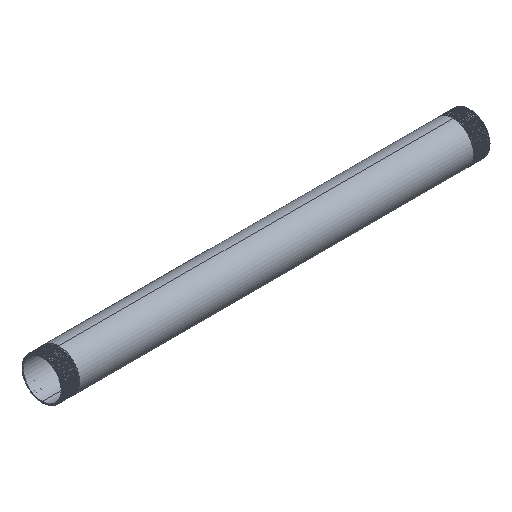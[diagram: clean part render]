
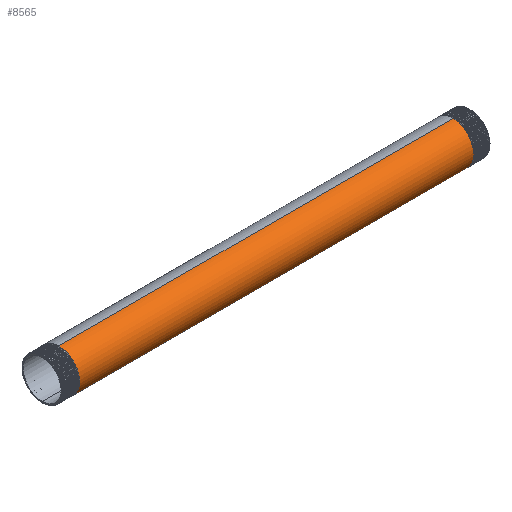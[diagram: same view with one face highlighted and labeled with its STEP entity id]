
A CAD part, isometric view. The second image highlights one B-rep face of the part: STEP entity #8565.
In plain terms, the highlighted cylindrical face has radius 24.15 mm (diameter 48.3 mm), a partial arc.
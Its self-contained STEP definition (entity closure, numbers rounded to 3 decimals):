
#83 = CARTESIAN_POINT ( 'NONE',  ( 230.141, -24.15, -10.003 ) ) ;
#925 = DIRECTION ( 'NONE',  ( 0., 0., 1. ) ) ;
#1207 = CARTESIAN_POINT ( 'NONE',  ( -230.453, -10.003, 24.15 ) ) ;
#1986 = EDGE_CURVE ( 'NONE', #7922, #4952, #12515, .T. ) ;
#2148 = CARTESIAN_POINT ( 'NONE',  ( -230.063, -17.077, -17.077 ) ) ;
#2200 = CARTESIAN_POINT ( 'NONE',  ( 229.906, 0., -24.15 ) ) ;
#2221 = CARTESIAN_POINT ( 'NONE',  ( -229.906, 0., -24.15 ) ) ;
#2338 = CARTESIAN_POINT ( 'NONE',  ( 230.219, -24.15, 0. ) ) ;
#3191 = DIRECTION ( 'NONE',  ( -1., 0., 0. ) ) ;
#3708 = ORIENTED_EDGE ( 'NONE', *, *, #9220, .T. ) ;
#4345 = CARTESIAN_POINT ( 'NONE',  ( -149.494, 0., -24.15 ) ) ;
#4374 = CARTESIAN_POINT ( 'NONE',  ( 230.297, -24.15, 10.003 ) ) ;
#4417 = LINE ( 'NONE', #4345, #5498 ) ;
#4593 = CARTESIAN_POINT ( 'NONE',  ( 229.984, -10.003, -24.15 ) ) ;
#4606 = VERTEX_POINT ( 'NONE', #7221 ) ;
#4763 = EDGE_CURVE ( 'NONE', #10411, #4952, #4874, .T. ) ;
#4874 =( BOUNDED_CURVE ( )  B_SPLINE_CURVE ( 2, ( #2221, #6640, #2148, #5631, #6708, #9972, #11136, #1207, #13391 ),
 .UNSPECIFIED., .F., .F. ) 
 B_SPLINE_CURVE_WITH_KNOTS ( ( 3, 2, 2, 2, 3 ),
 ( 0., 0.006, 0.012, 0.019, 0.025 ),
 .UNSPECIFIED. ) 
 CURVE ( )  GEOMETRIC_REPRESENTATION_ITEM ( )  RATIONAL_B_SPLINE_CURVE ( ( 1., 0.924, 1., 0.924, 1., 0.924, 1., 0.924, 1. ) ) 
 REPRESENTATION_ITEM ( '' )  );
#4952 = VERTEX_POINT ( 'NONE', #12994 ) ;
#5498 = VECTOR ( 'NONE', #3191, 1000. ) ;
#5631 = CARTESIAN_POINT ( 'NONE',  ( -230.141, -24.15, -10.003 ) ) ;
#5677 = CARTESIAN_POINT ( 'NONE',  ( 230.063, -17.077, -17.077 ) ) ;
#6026 = CARTESIAN_POINT ( 'NONE',  ( 230.531, 0., 24.15 ) ) ;
#6617 = CARTESIAN_POINT ( 'NONE',  ( 230.531, 0., 24.15 ) ) ;
#6640 = CARTESIAN_POINT ( 'NONE',  ( -229.984, -10.003, -24.15 ) ) ;
#6708 = CARTESIAN_POINT ( 'NONE',  ( -230.219, -24.15, 0. ) ) ;
#7112 = EDGE_CURVE ( 'NONE', #4606, #10411, #4417, .T. ) ;
#7221 = CARTESIAN_POINT ( 'NONE',  ( 229.906, 0., -24.15 ) ) ;
#7630 = VECTOR ( 'NONE', #13663, 1000. ) ;
#7749 =( BOUNDED_CURVE ( )  B_SPLINE_CURVE ( 2, ( #2200, #4593, #5677, #83, #2338, #4374, #11117, #11045, #6617 ),
 .UNSPECIFIED., .F., .T. ) 
 B_SPLINE_CURVE_WITH_KNOTS ( ( 3, 2, 2, 2, 3 ),
 ( 0., 0.006, 0.012, 0.019, 0.025 ),
 .UNSPECIFIED. ) 
 CURVE ( )  GEOMETRIC_REPRESENTATION_ITEM ( )  RATIONAL_B_SPLINE_CURVE ( ( 1., 0.924, 1., 0.924, 1., 0.924, 1., 0.924, 1. ) ) 
 REPRESENTATION_ITEM ( '' )  );
#7922 = VERTEX_POINT ( 'NONE', #6026 ) ;
#8565 = ADVANCED_FACE ( 'NONE', ( #8750 ), #10859, .T. ) ;
#8750 = FACE_OUTER_BOUND ( 'NONE', #9607, .T. ) ;
#9220 = EDGE_CURVE ( 'NONE', #4606, #7922, #7749, .T. ) ;
#9607 = EDGE_LOOP ( 'NONE', ( #10448, #3708, #12938, #14243 ) ) ;
#9621 = DIRECTION ( 'NONE',  ( -1., 0., 0. ) ) ;
#9622 = AXIS2_PLACEMENT_3D ( 'NONE', #11881, #9621, #925 ) ;
#9972 = CARTESIAN_POINT ( 'NONE',  ( -230.297, -24.15, 10.003 ) ) ;
#10059 = CARTESIAN_POINT ( 'NONE',  ( -229.906, 0., -24.15 ) ) ;
#10327 = CARTESIAN_POINT ( 'NONE',  ( -149.494, 0., 24.15 ) ) ;
#10411 = VERTEX_POINT ( 'NONE', #10059 ) ;
#10448 = ORIENTED_EDGE ( 'NONE', *, *, #7112, .F. ) ;
#10859 = CYLINDRICAL_SURFACE ( 'NONE', #9622, 24.15 ) ;
#11045 = CARTESIAN_POINT ( 'NONE',  ( 230.453, -10.003, 24.15 ) ) ;
#11117 = CARTESIAN_POINT ( 'NONE',  ( 230.375, -17.077, 17.077 ) ) ;
#11136 = CARTESIAN_POINT ( 'NONE',  ( -230.375, -17.077, 17.077 ) ) ;
#11881 = CARTESIAN_POINT ( 'NONE',  ( -149.494, 0., 0. ) ) ;
#12515 = LINE ( 'NONE', #10327, #7630 ) ;
#12938 = ORIENTED_EDGE ( 'NONE', *, *, #1986, .T. ) ;
#12994 = CARTESIAN_POINT ( 'NONE',  ( -230.531, 0., 24.15 ) ) ;
#13391 = CARTESIAN_POINT ( 'NONE',  ( -230.531, 0., 24.15 ) ) ;
#13663 = DIRECTION ( 'NONE',  ( -1., 0., 0. ) ) ;
#14243 = ORIENTED_EDGE ( 'NONE', *, *, #4763, .F. ) ;
